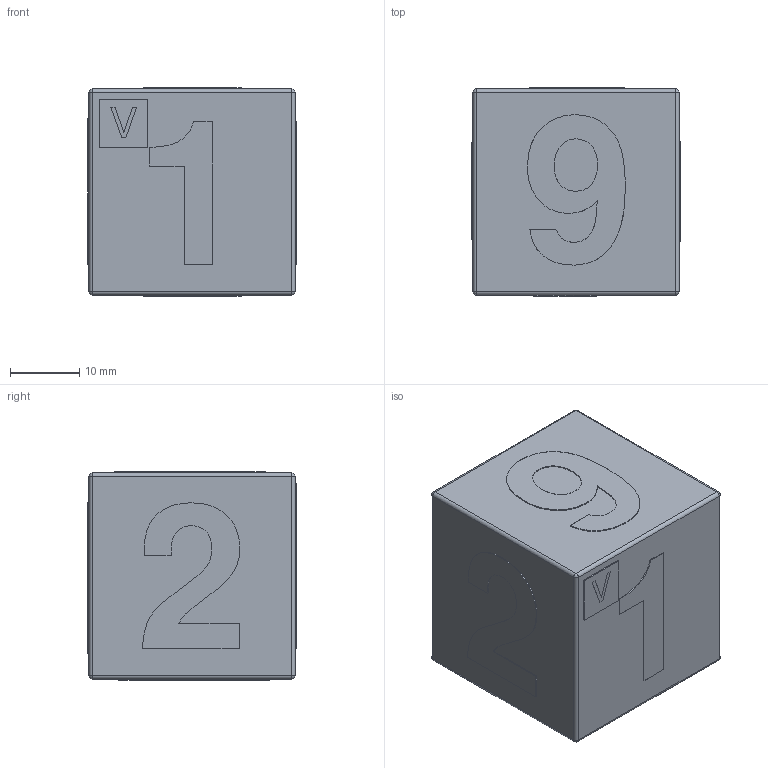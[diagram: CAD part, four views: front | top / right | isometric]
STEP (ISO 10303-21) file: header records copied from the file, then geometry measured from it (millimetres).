
FILE_DESCRIPTION(('Open CASCADE Model'),'2;1');
FILE_NAME('Open CASCADE Shape Model','2025-09-14T20:47:17',('Author'),( 'Open CASCADE'),'Open CASCADE STEP processor 7.8','Open CASCADE 7.8' ,'Unknown');
FILE_SCHEMA(('AUTOMOTIVE_DESIGN { 1 0 10303 214 1 1 1 1 }'));
Length unit declared in the file: millimetre
Products named in the file (20): 9e3e7d38-91a3-11f0-88d2-1c1b0deae66b; 9e3e7efa-91a3-11f0-88d2-1c1b0deae66b; 9e3e7efa-91a3-11f0-88d2-1c1b0deae66b_part; 9e41fa8a-91a3-11f0-88d2-1c1b0deae66b; 9e41fa8a-91a3-11f0-88d2-1c1b0deae66b_part; 9e450702-91a3-11f0-88d2-1c1b0deae66b; 9e450702-91a3-11f0-88d2-1c1b0deae66b_part; 9e49628e-91a3-11f0-88d2-1c1b0deae66b; 9e49628e-91a3-11f0-88d2-1c1b0deae66b_part; 9e4b43ba-91a3-11f0-88d2-1c1b0deae66b; 9e4b43ba-91a3-11f0-88d2-1c1b0deae66b_part; 9e4d1d7a-91a3-11f0-88d2-1c1b0deae66b; 9e4d1d7a-91a3-11f0-88d2-1c1b0deae66b_part; 9e4ef1f4-91a3-11f0-88d2-1c1b0deae66b; 9e4ef1f4-91a3-11f0-88d2-1c1b0deae66b_part; 9e51c33e-91a3-11f0-88d2-1c1b0deae66b; 9e51c33e-91a3-11f0-88d2-1c1b0deae66b_part; 9e51c442-91a3-11f0-88d2-1c1b0deae66b; 9e51c442-91a3-11f0-88d2-1c1b0deae66b_part
Assembly tree (19 placements, depth 4):
  9e3e7d38-91a3-11f0-88d2-1c1b0deae66b
    9e3e7d38-91a3-11f0-88d2-1c1b0deae66b
      9e3e7efa-91a3-11f0-88d2-1c1b0deae66b
        9e3e7efa-91a3-11f0-88d2-1c1b0deae66b_part
      9e41fa8a-91a3-11f0-88d2-1c1b0deae66b
        9e41fa8a-91a3-11f0-88d2-1c1b0deae66b_part
      9e450702-91a3-11f0-88d2-1c1b0deae66b
        9e450702-91a3-11f0-88d2-1c1b0deae66b_part
      9e49628e-91a3-11f0-88d2-1c1b0deae66b
        9e49628e-91a3-11f0-88d2-1c1b0deae66b_part
      9e4b43ba-91a3-11f0-88d2-1c1b0deae66b
        9e4b43ba-91a3-11f0-88d2-1c1b0deae66b_part
      9e4d1d7a-91a3-11f0-88d2-1c1b0deae66b
        9e4d1d7a-91a3-11f0-88d2-1c1b0deae66b_part
      9e4ef1f4-91a3-11f0-88d2-1c1b0deae66b
        9e4ef1f4-91a3-11f0-88d2-1c1b0deae66b_part
      9e51c33e-91a3-11f0-88d2-1c1b0deae66b
        9e51c33e-91a3-11f0-88d2-1c1b0deae66b_part
      9e51c442-91a3-11f0-88d2-1c1b0deae66b
        9e51c442-91a3-11f0-88d2-1c1b0deae66b_part
Bounding box: 30 x 30 x 30 mm (x, y, z)
Volume: 26322.3 mm3; surface area: 7213.9 mm2
Topology: 9 solids, 9 shells, 201 faces, 533 edges, 342 vertices
Faces by surface type: extrusion 102, plane 79, cylinder 12, sphere 8
Entity records: 13450 total; most frequent: CARTESIAN_POINT 3190, DIRECTION 1499, VECTOR 1213, LINE 1111, ORIENTED_EDGE 1050, PCURVE 1050, DEFINITIONAL_REPRESENTATION 1050, B_SPLINE_CURVE_WITH_KNOTS 542
